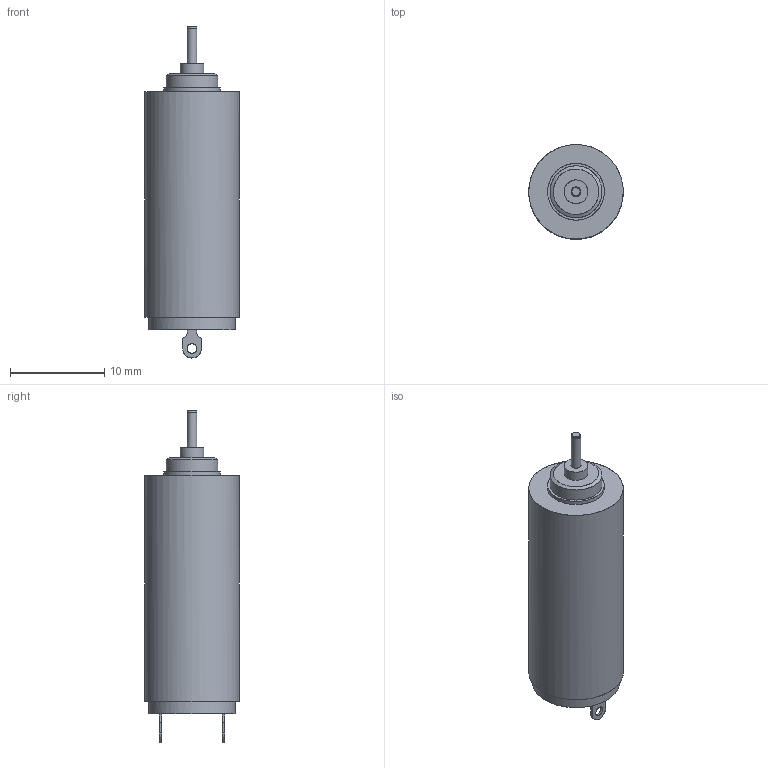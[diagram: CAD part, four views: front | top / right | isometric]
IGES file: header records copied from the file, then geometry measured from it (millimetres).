
Global section: file name: C:\Users\powell\Desktop\3D_Models\TypK\1024K_SR.igs; native system: NX V8.5; preprocessor: SIEMENS PLM Software NX 8.5; author: DR. FRITZ FAULHABER GmbH & Co. KG; organization: DR. FRITZ FAULHABER GmbH & Co. KG; date: 20151109.114348; units: millimetre
Bounding box: 10 x 10 x 35.15 mm (x, y, z)
Surface area: 1020.6 mm2 (no closed solid volume)
Topology: 0 solids, 0 shells, 47 faces, 328 edges, 308 vertices
Faces by surface type: bspline 47
